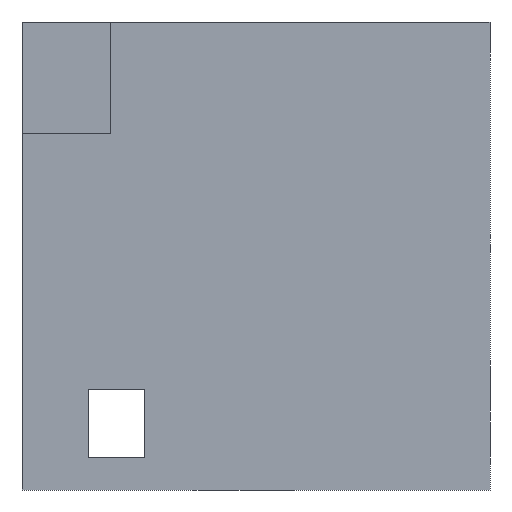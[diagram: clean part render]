
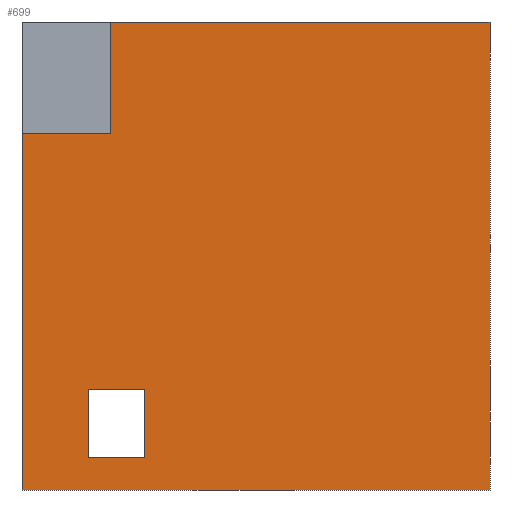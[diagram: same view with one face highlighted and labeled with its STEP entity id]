
A CAD part, front view. The second image highlights one B-rep face of the part: STEP entity #699.
In plain terms, the highlighted planar face has unit normal (0, -1, 0).
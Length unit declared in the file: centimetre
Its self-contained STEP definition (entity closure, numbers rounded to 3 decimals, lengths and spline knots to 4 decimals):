
#21 = VECTOR ( 'NONE', #337, 100. ) ;
#32 = EDGE_CURVE ( 'NONE', #1334, #477, #1128, .T. ) ;
#52 = EDGE_LOOP ( 'NONE', ( #1470, #390, #731, #877 ) ) ;
#77 = CARTESIAN_POINT ( 'NONE',  ( 0., 0., 1000. ) ) ;
#80 = DIRECTION ( 'NONE',  ( 1., 0., 0. ) ) ;
#138 = LINE ( 'NONE', #870, #349 ) ;
#164 = EDGE_CURVE ( 'NONE', #1334, #929, #1327, .T. ) ;
#168 = EDGE_LOOP ( 'NONE', ( #1119, #1314, #1017, #1263, #1415, #1030 ) ) ;
#224 = CARTESIAN_POINT ( 'NONE',  ( 261.2023, 0., 68.9252 ) ) ;
#257 = CARTESIAN_POINT ( 'NONE',  ( 188.04, 0., 761.7202 ) ) ;
#266 = AXIS2_PLACEMENT_3D ( 'NONE', #1439, #502, #618 ) ;
#284 = VERTEX_POINT ( 'NONE', #1400 ) ;
#314 = VECTOR ( 'NONE', #663, 100. ) ;
#320 = VECTOR ( 'NONE', #1366, 100. ) ;
#323 = VERTEX_POINT ( 'NONE', #1248 ) ;
#337 = DIRECTION ( 'NONE',  ( 1., 0., 0. ) ) ;
#349 = VECTOR ( 'NONE', #1337, 100. ) ;
#380 = EDGE_CURVE ( 'NONE', #477, #323, #670, .T. ) ;
#384 = LINE ( 'NONE', #972, #450 ) ;
#390 = ORIENTED_EDGE ( 'NONE', *, *, #816, .T. ) ;
#393 = DIRECTION ( 'NONE',  ( 1., 0., 0. ) ) ;
#435 = CARTESIAN_POINT ( 'NONE',  ( 1000., 0., 1000. ) ) ;
#450 = VECTOR ( 'NONE', #393, 100. ) ;
#462 = CARTESIAN_POINT ( 'NONE',  ( 0., 0., 761.7202 ) ) ;
#470 = CARTESIAN_POINT ( 'NONE',  ( 141.346, 0., 68.9252 ) ) ;
#477 = VERTEX_POINT ( 'NONE', #462 ) ;
#492 = LINE ( 'NONE', #470, #713 ) ;
#502 = DIRECTION ( 'NONE',  ( 0., 1., 0. ) ) ;
#525 = CARTESIAN_POINT ( 'NONE',  ( 0., 0., 1000. ) ) ;
#529 = VERTEX_POINT ( 'NONE', #823 ) ;
#551 = LINE ( 'NONE', #1389, #561 ) ;
#561 = VECTOR ( 'NONE', #1265, 100. ) ;
#618 = DIRECTION ( 'NONE',  ( 0., 0., 1. ) ) ;
#649 = CARTESIAN_POINT ( 'NONE',  ( 0., 0., 0. ) ) ;
#663 = DIRECTION ( 'NONE',  ( 0., 0., -1. ) ) ;
#670 = LINE ( 'NONE', #525, #320 ) ;
#699 = ADVANCED_FACE ( 'NONE', ( #1486, #1008 ), #854, .F. ) ;
#700 = CARTESIAN_POINT ( 'NONE',  ( 1000., 0., 1000. ) ) ;
#709 = DIRECTION ( 'NONE',  ( 0., 0., 1. ) ) ;
#712 = VERTEX_POINT ( 'NONE', #965 ) ;
#713 = VECTOR ( 'NONE', #1416, 100. ) ;
#722 = EDGE_CURVE ( 'NONE', #529, #712, #384, .T. ) ;
#731 = ORIENTED_EDGE ( 'NONE', *, *, #722, .T. ) ;
#773 = DIRECTION ( 'NONE',  ( -1., 0., 0. ) ) ;
#780 = EDGE_CURVE ( 'NONE', #929, #1103, #1148, .T. ) ;
#794 = VERTEX_POINT ( 'NONE', #224 ) ;
#806 = VECTOR ( 'NONE', #80, 100. ) ;
#814 = CARTESIAN_POINT ( 'NONE',  ( 188.04, 0., 1000. ) ) ;
#816 = EDGE_CURVE ( 'NONE', #1150, #529, #492, .T. ) ;
#823 = CARTESIAN_POINT ( 'NONE',  ( 141.346, 0., 215.0357 ) ) ;
#834 = CARTESIAN_POINT ( 'NONE',  ( 141.346, 0., 68.9252 ) ) ;
#854 = PLANE ( 'NONE',  #266 ) ;
#870 = CARTESIAN_POINT ( 'NONE',  ( 261.2023, 0., 68.9252 ) ) ;
#877 = ORIENTED_EDGE ( 'NONE', *, *, #1426, .T. ) ;
#929 = VERTEX_POINT ( 'NONE', #814 ) ;
#965 = CARTESIAN_POINT ( 'NONE',  ( 261.2023, 0., 215.0357 ) ) ;
#972 = CARTESIAN_POINT ( 'NONE',  ( 141.346, 0., 215.0357 ) ) ;
#1008 = FACE_OUTER_BOUND ( 'NONE', #168, .T. ) ;
#1009 = CARTESIAN_POINT ( 'NONE',  ( 188.04, 0., 761.7202 ) ) ;
#1017 = ORIENTED_EDGE ( 'NONE', *, *, #380, .T. ) ;
#1030 = ORIENTED_EDGE ( 'NONE', *, *, #780, .F. ) ;
#1103 = VERTEX_POINT ( 'NONE', #700 ) ;
#1119 = ORIENTED_EDGE ( 'NONE', *, *, #164, .F. ) ;
#1128 = LINE ( 'NONE', #1009, #1352 ) ;
#1148 = LINE ( 'NONE', #77, #21 ) ;
#1150 = VERTEX_POINT ( 'NONE', #834 ) ;
#1238 = LINE ( 'NONE', #435, #314 ) ;
#1248 = CARTESIAN_POINT ( 'NONE',  ( 0., 0., 0. ) ) ;
#1261 = EDGE_CURVE ( 'NONE', #323, #284, #1376, .T. ) ;
#1263 = ORIENTED_EDGE ( 'NONE', *, *, #1261, .T. ) ;
#1265 = DIRECTION ( 'NONE',  ( -1., 0., 0. ) ) ;
#1314 = ORIENTED_EDGE ( 'NONE', *, *, #32, .T. ) ;
#1327 = LINE ( 'NONE', #257, #1522 ) ;
#1334 = VERTEX_POINT ( 'NONE', #1419 ) ;
#1337 = DIRECTION ( 'NONE',  ( 0., 0., -1. ) ) ;
#1352 = VECTOR ( 'NONE', #773, 100. ) ;
#1366 = DIRECTION ( 'NONE',  ( 0., 0., -1. ) ) ;
#1376 = LINE ( 'NONE', #649, #806 ) ;
#1389 = CARTESIAN_POINT ( 'NONE',  ( 141.346, 0., 68.9252 ) ) ;
#1400 = CARTESIAN_POINT ( 'NONE',  ( 1000., 0., 0. ) ) ;
#1415 = ORIENTED_EDGE ( 'NONE', *, *, #1485, .F. ) ;
#1416 = DIRECTION ( 'NONE',  ( 0., 0., 1. ) ) ;
#1419 = CARTESIAN_POINT ( 'NONE',  ( 188.04, 0., 761.7202 ) ) ;
#1426 = EDGE_CURVE ( 'NONE', #712, #794, #138, .T. ) ;
#1439 = CARTESIAN_POINT ( 'NONE',  ( 0., 0., 1000. ) ) ;
#1470 = ORIENTED_EDGE ( 'NONE', *, *, #1521, .T. ) ;
#1485 = EDGE_CURVE ( 'NONE', #1103, #284, #1238, .T. ) ;
#1486 = FACE_BOUND ( 'NONE', #52, .T. ) ;
#1521 = EDGE_CURVE ( 'NONE', #794, #1150, #551, .T. ) ;
#1522 = VECTOR ( 'NONE', #709, 100. ) ;
